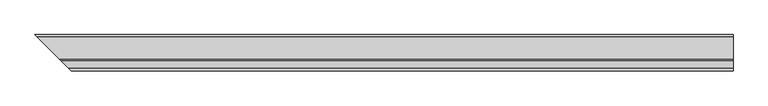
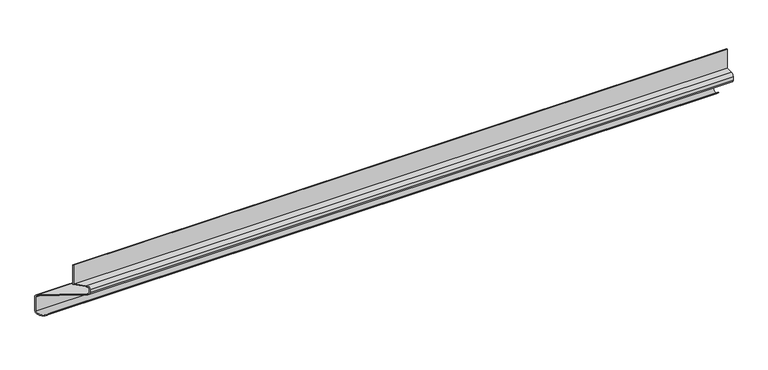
"""IFC4 building model written with IfcOpenShell, lengths in millimetres: proxy geometry, Слив_цоколя : Тип."""

from ifc_helpers import new_model, si_unit, frame, origin, place, context, project, spatial, polyline, circle_curve, ellipse_curve, source, transform, mapped, element, save
from ifc_brep_helpers import plane_surface, cylinder_surface, revolved_surface, advanced_brep


def generic_models_0f7cf230(model_context):
    return source(origin(), model_context, "Body", "AdvancedBrep", [
        advanced_brep(
        [(-644.093549, 220.7097399, -35.1867822), (-651.6604058, 228.2765966, -42.0595371), (883.3838091, 228.2765966, -42.0595371), (883.3838091, 220.7097399, -35.1867822), (-668.3838091, 245.0, -34.6571153), (883.3838091, 245.0, -34.6571153), (-668.3838091, 245.0, 0.0), (883.3838091, 245.0, 0.0), (-664.6546373, 241.2708281, 4.8358035), (883.3838091, 241.2708281, 4.8358035), (-633.3838091, 210.0, 13.8714094), (-593.3486012, 169.964792, 25.4394549), (883.3838091, 169.964792, 25.4394549), (883.3838091, 210.0, 13.8714094), (-589.6194293, 166.2356202, 30.2752584), (883.3838091, 166.2356202, 30.2752584), (-589.6194293, 166.2356202, 37.8625579), (883.3838091, 166.2356202, 37.8625579), (-594.6194293, 171.2356202, 42.8625579), (883.3838091, 171.2356202, 42.8625579), (-613.3838091, 190.0, 42.8625579), (883.3838091, 190.0, 42.8625579), (-613.3838091, 190.0, 90.6442999), (883.3838091, 190.0, 90.6442999), (-611.3838091, 188.0, 90.6442999), (883.3838091, 188.0, 90.6442999), (-611.3838091, 188.0, 44.8625579), (883.3838091, 188.0, 44.8625579), (-594.6194293, 171.2356202, 44.8625579), (883.3838091, 171.2356202, 44.8625579), (-587.6194293, 164.2356202, 37.8625579), (883.3838091, 164.2356202, 37.8625579), (-587.6194293, 164.2356202, 30.2752584), (883.3838091, 164.2356202, 30.2752584), (-592.8148065, 169.4309974, 23.5118764), (883.3838091, 169.4309974, 23.5118764), (-633.3838091, 210.0, 11.7895927), (-664.1257681, 240.741959, 2.9068018), (883.3838091, 240.741959, 2.9068018), (883.3838091, 210.0, 11.7895927), (-666.3838091, 243.0, 0.0), (883.3838091, 243.0, 0.0), (-666.3838091, 243.0, -34.6571153), (883.3838091, 243.0, -34.6571153), (-653.0050864, 229.6212773, -40.5790527), (883.3838091, 229.6212773, -40.5790527), (-645.5093955, 222.1255864, -33.7709357), (883.3838091, 222.1255864, -33.7709357)],
        [
            (0, 1),
            (1, 2),
            (2, 3),
            (3, 0),
            (1, 4, ellipse_curve(frame((-658.3838091, 235.0, -34.6571153), z_axis=(0.7071067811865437, 0.7071067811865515, 0.0), x_axis=(0.7071067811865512, -0.7071067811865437, 0.0)), 14.1421356, 10.0)),
            (4, 5),
            (5, 2, circle_curve(frame((883.3838091, 235.0, -34.6571153), z_axis=(-1.0, 0.0, 0.0), x_axis=(0.0, 1.0, 0.0)), 10.0)),
            (4, 6),
            (6, 7),
            (7, 5),
            (6, 8, ellipse_curve(frame((-663.3838091, 240.0, 0.0), z_axis=(0.7071067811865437, 0.7071067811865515, 0.0), x_axis=(0.7071067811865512, -0.7071067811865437, 0.0)), 7.0710678, 5.0)),
            (8, 9),
            (9, 7, circle_curve(frame((883.3838091, 240.0, 0.0), z_axis=(-1.0, 0.0, 0.0), x_axis=(0.0, 1.0, 0.0)), 5.0)),
            (8, 10),
            (10, 11),
            (11, 12),
            (12, 13),
            (13, 9),
            (11, 14, ellipse_curve(frame((-594.6194293, 171.2356202, 30.2752584), z_axis=(-0.707106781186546, -0.7071067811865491, 0.0), x_axis=(-0.7071067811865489, 0.707106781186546, 0.0)), 7.0710678, 5.0)),
            (14, 15),
            (15, 12, circle_curve(frame((883.3838091, 171.2356202, 30.2752584), z_axis=(1.0, 0.0, 0.0), x_axis=(0.0, 1.0, 0.0)), 5.0)),
            (14, 16),
            (16, 17),
            (17, 15),
            (16, 18, ellipse_curve(frame((-594.6194293, 171.2356202, 37.8625579), z_axis=(-0.707106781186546, -0.7071067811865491, 0.0), x_axis=(-0.7071067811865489, 0.707106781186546, 0.0)), 7.0710678, 5.0)),
            (18, 19),
            (19, 17, circle_curve(frame((883.3838091, 171.2356202, 37.8625579), z_axis=(1.0, 0.0, 0.0), x_axis=(0.0, 1.0, 0.0)), 5.0)),
            (18, 20),
            (20, 21),
            (21, 19),
            (20, 22),
            (22, 23),
            (23, 21),
            (22, 24),
            (24, 25),
            (25, 23),
            (24, 26),
            (26, 27),
            (27, 25),
            (26, 28),
            (28, 29),
            (29, 27),
            (28, 30, ellipse_curve(frame((-594.6194293, 171.2356202, 37.8625579), z_axis=(0.707106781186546, 0.7071067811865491, 0.0), x_axis=(0.7071067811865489, -0.707106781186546, 0.0)), 9.8994949, 7.0)),
            (30, 31),
            (31, 29, circle_curve(frame((883.3838091, 171.2356202, 37.8625579), z_axis=(-1.0, 0.0, 0.0), x_axis=(0.0, 1.0, 0.0)), 7.0)),
            (30, 32),
            (32, 33),
            (33, 31),
            (32, 34, ellipse_curve(frame((-594.6194293, 171.2356202, 30.2752584), z_axis=(0.707106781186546, 0.7071067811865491, 0.0), x_axis=(0.7071067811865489, -0.707106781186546, 0.0)), 9.8994949, 7.0)),
            (34, 35),
            (35, 33, circle_curve(frame((883.3838091, 171.2356202, 30.2752584), z_axis=(-1.0, 0.0, 0.0), x_axis=(0.0, 1.0, 0.0)), 7.0)),
            (36, 37),
            (37, 38),
            (38, 39),
            (39, 35),
            (34, 36),
            (37, 40, ellipse_curve(frame((-663.3838091, 240.0, 0.0), z_axis=(-0.7071067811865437, -0.7071067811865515, 0.0), x_axis=(-0.7071067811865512, 0.7071067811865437, 0.0)), 4.2426407, 3.0)),
            (40, 41),
            (41, 38, circle_curve(frame((883.3838091, 240.0, 0.0), z_axis=(1.0, 0.0, 0.0), x_axis=(0.0, 1.0, 0.0)), 3.0)),
            (40, 42),
            (42, 43),
            (43, 41),
            (42, 44, ellipse_curve(frame((-658.3838091, 235.0, -34.6571153), z_axis=(-0.7071067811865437, -0.7071067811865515, 0.0), x_axis=(-0.7071067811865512, 0.7071067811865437, 0.0)), 11.3137085, 8.0)),
            (44, 45),
            (45, 43, circle_curve(frame((883.3838091, 235.0, -34.6571153), z_axis=(1.0, 0.0, 0.0), x_axis=(0.0, 1.0, 0.0)), 8.0)),
            (44, 46),
            (46, 47),
            (47, 45),
            (46, 0),
            (3, 47),
            (36, 10),
            (39, 13),
        ],
        [
            plane_surface(frame((1383.3838091, 220.7097399, -35.1867822), z_axis=(0.0, -0.6723403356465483, -0.7402421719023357), x_axis=(-1.0, 0.0, 0.0))),
            cylinder_surface(frame((-1133.3838091, 235.0, -34.6571153), z_axis=(1.0, 0.0, 0.0), x_axis=(0.0, 1.0, 0.0)), 10.0),
            plane_surface(frame((1383.3838091, 245.0, -34.6571153), z_axis=(0.0, 1.0, 0.0), x_axis=(-1.0, 0.0, 0.0))),
            cylinder_surface(frame((-1133.3838091, 240.0, 0.0), z_axis=(1.0, 0.0, 0.0), x_axis=(0.0, 1.0, 0.0)), 5.0),
            plane_surface(frame((1383.3838091, 241.2708281, 4.8358035), z_axis=(0.0, 0.27759100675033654, 0.9606993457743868), x_axis=(-1.0, 0.0, 0.0))),
            revolved_surface(polyline([(-599.6194292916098, 176.2356202, 30.2752584), (883.3838091, 176.2356202, 30.2752584)]), (-1133.3838091, 171.2356202, 30.2752584), (-1.0, 0.0, 0.0)),
            plane_surface(frame((1383.3838091, 166.2356202, 30.2752584), z_axis=(0.0, 1.0, 0.0), x_axis=(-1.0, 0.0, 0.0))),
            revolved_surface(polyline([(-599.6194292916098, 176.2356202, 37.8625579), (883.3838091, 176.2356202, 37.8625579)]), (-1133.3838091, 171.2356202, 37.8625579), (-1.0, 0.0, 0.0)),
            plane_surface(frame((1383.3838091, 171.2356202, 42.8625579), z_axis=(0.0, 0.0, -1.0), x_axis=(-1.0, 0.0, 0.0))),
            plane_surface(frame((1383.3838091, 190.0, 42.8625579), z_axis=(0.0, 1.0, 0.0), x_axis=(-1.0, 0.0, 0.0))),
            plane_surface(frame((1383.3838091, 190.0, 90.6442999), z_axis=(0.0, 0.0, 1.0), x_axis=(-1.0, 0.0, 0.0))),
            plane_surface(frame((1383.3838091, 188.0, 90.6442999), z_axis=(0.0, -1.0, 0.0), x_axis=(-1.0, 0.0, 0.0))),
            plane_surface(frame((1383.3838091, 188.0, 44.8625579), z_axis=(0.0, 0.0, 1.0), x_axis=(-1.0, 0.0, 0.0))),
            cylinder_surface(frame((-1133.3838091, 171.2356202, 37.8625579), z_axis=(1.0, 0.0, 0.0), x_axis=(0.0, 1.0, 0.0)), 7.0),
            plane_surface(frame((1383.3838091, 164.2356202, 37.8625579), z_axis=(0.0, -1.0, 0.0), x_axis=(-1.0, 0.0, 0.0))),
            cylinder_surface(frame((-1133.3838091, 171.2356202, 30.2752584), z_axis=(1.0, 0.0, 0.0), x_axis=(0.0, 1.0, 0.0)), 7.0),
            plane_surface(frame((1383.3838091, 169.4309974, 23.5118764), z_axis=(0.0, -0.2775910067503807, -0.960699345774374), x_axis=(-1.0, 0.0, 0.0))),
            revolved_surface(polyline([(-666.3838091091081, 243.0, 0.0), (883.3838091, 243.0, 0.0)]), (-1133.3838091, 240.0, 0.0), (-1.0, 0.0, 0.0)),
            plane_surface(frame((1383.3838091, 243.0, 0.0), z_axis=(0.0, -1.0, 0.0), x_axis=(-1.0, 0.0, 0.0))),
            revolved_surface(polyline([(-666.3838091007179, 243.0, -34.6571153), (883.3838091, 243.0, -34.6571153)]), (-1133.3838091, 235.0, -34.6571153), (-1.0, 0.0, 0.0)),
            plane_surface(frame((1383.3838091, 229.6212773, -40.5790527), z_axis=(0.0, 0.6723403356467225, 0.7402421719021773), x_axis=(-1.0, 0.0, 0.0))),
            plane_surface(frame((1383.3838091, 222.1255864, -33.7709357), z_axis=(0.0, -0.7071067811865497, 0.7071067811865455), x_axis=(-1.0, 0.0, 0.0))),
            plane_surface(frame((-633.3838091, 210.0, 508.0), z_axis=(-0.7071067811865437, -0.7071067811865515, 0.0), x_axis=(-0.7071067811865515, 0.7071067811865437, 0.0))),
            plane_surface(frame((-633.3838091, 210.0, 508.0), z_axis=(-0.707106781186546, -0.7071067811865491, 0.0), x_axis=(0.7071067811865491, -0.707106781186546, 0.0))),
            plane_surface(frame((883.3838091, 210.0, -508.0), z_axis=(1.0, 0.0, 0.0), x_axis=(0.0, -1.0, 0.0))),
            plane_surface(frame((883.3838091, 210.0, -508.0), z_axis=(1.0, 0.0, 0.0), x_axis=(0.0, 1.0, 0.0))),
        ],
        [
            (0, [[1, 2, 3, 4]]),
            (1, [[5, 6, 7, -2]]),
            (2, [[8, 9, 10, -6]]),
            (3, [[11, 12, 13, -9]]),
            (4, [[14, 15, 16, 17, 18, -12]]),
            (5, [[19, 20, 21, -16]]),
            (6, [[22, 23, 24, -20]]),
            (7, [[25, 26, 27, -23]]),
            (8, [[28, 29, 30, -26]]),
            (9, [[31, 32, 33, -29]]),
            (10, [[34, 35, 36, -32]]),
            (11, [[37, 38, 39, -35]]),
            (12, [[40, 41, 42, -38]]),
            (13, [[43, 44, 45, -41]]),
            (14, [[46, 47, 48, -44]]),
            (15, [[49, 50, 51, -47]]),
            (16, [[52, 53, 54, 55, -50, 56]]),
            (17, [[57, 58, 59, -53]]),
            (18, [[60, 61, 62, -58]]),
            (19, [[63, 64, 65, -61]]),
            (20, [[66, 67, 68, -64]]),
            (21, [[69, -4, 70, -67]]),
            (22, [[71, -14, -11, -8, -5, -1, -69, -66, -63, -60, -57, -52]]),
            (23, [[-71, -56, -49, -46, -43, -40, -37, -34, -31, -28, -25, -22, -19, -15]]),
            (24, [[72, -17, -21, -24, -27, -30, -33, -36, -39, -42, -45, -48, -51, -55]]),
            (25, [[-72, -54, -59, -62, -65, -68, -70, -3, -7, -10, -13, -18]]),
        ],
    ),
    ])


if __name__ == "__main__":
    model = new_model("IFC4")
    model_context = context("Model", 3, world=origin())
    ifc_project = project(units=[si_unit("LENGTHUNIT", "METRE", prefix="MILLI")], contexts=[model_context])
    site = spatial("IfcSite", under=ifc_project)
    building = spatial("IfcBuilding", under=site)
    placement = place(None, origin())
    generic_models_shape = generic_models_0f7cf230(model_context)
    element("IfcBuildingElementProxy", 1, Name="Слив_цоколя : Тип", ObjectType="Слив_цоколя : Тип", at=placement, inside=building, context=model_context, shape_type="MappedRepresentation", body=[
        mapped(generic_models_shape, transform((0.0, 0.0, 0.0), x_axis=(1.0, 0.0, 0.0), y_axis=(0.0, 1.0, 0.0), z_axis=(0.0, 0.0, 1.0))),
    ])
    save(model, "model.ifc")
